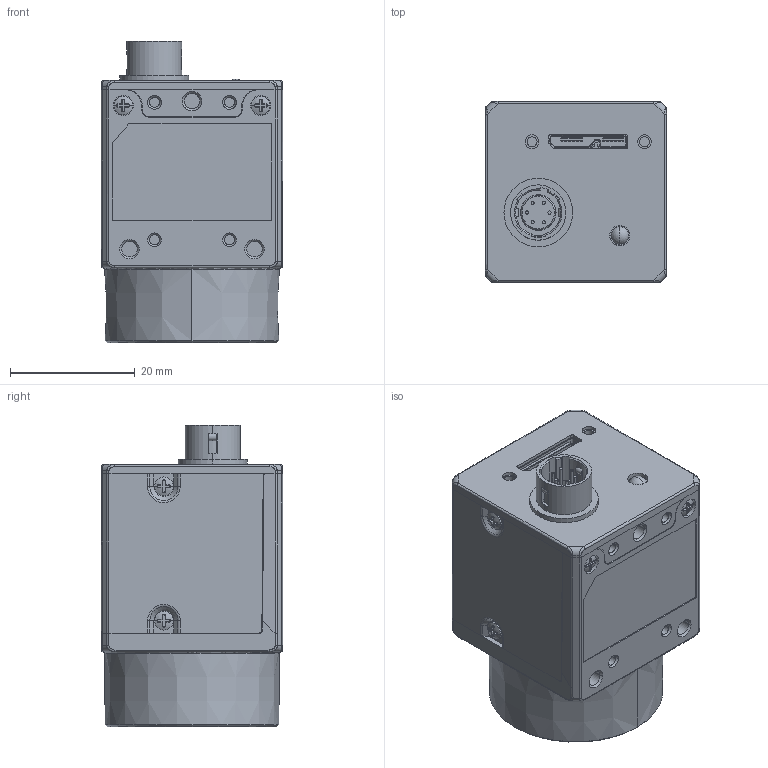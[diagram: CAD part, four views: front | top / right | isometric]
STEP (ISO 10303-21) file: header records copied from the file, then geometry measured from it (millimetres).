
FILE_DESCRIPTION((''),'2;1');
FILE_NAME('MV-CA003-21UMUC','2020-03-11T14:17:57',('wangyijun6'),(''),'CREO PARAMETRIC BY PTC INC, 2017260','CREO PARAMETRIC BY PTC INC, 2017260','');
FILE_SCHEMA(('CONFIG_CONTROL_DESIGN'));
Products named in the file (1): MV-CA003-21UMUC
Bounding box: 29.03 x 29 x 48.3 mm (x, y, z)
Volume: 26542.3 mm3; surface area: 10985 mm2
Topology: 1 solids, 13 shells, 1415 faces, 3738 edges, 2383 vertices
Faces by surface type: plane 580, cylinder 317, cone 191, bspline 171, torus 136, sphere 20
Entity records: 56756 total; most frequent: CARTESIAN_POINT 22418, ORIENTED_EDGE 7436, DIRECTION 6966, EDGE_CURVE 3718, AXIS2_PLACEMENT_3D 2570, VERTEX_POINT 2383, VECTOR 1826, LINE 1826
